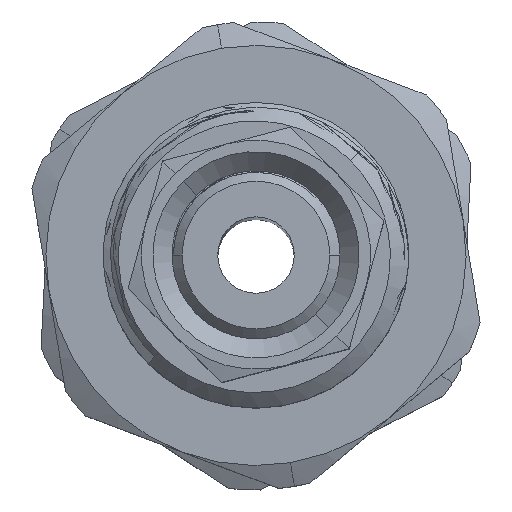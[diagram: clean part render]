
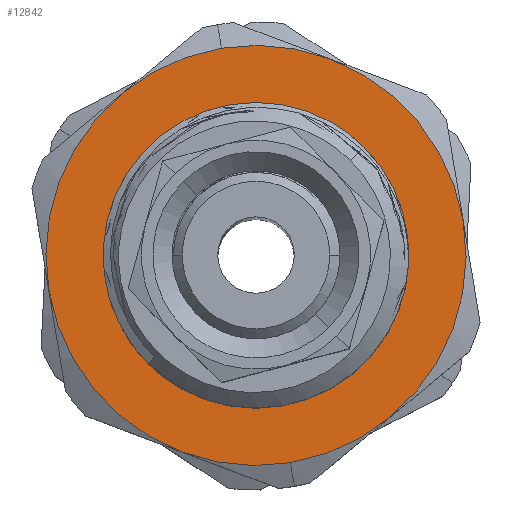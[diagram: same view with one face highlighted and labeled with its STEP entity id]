
A CAD part, top view. The second image highlights one B-rep face of the part: STEP entity #12842.
In plain terms, the highlighted planar face has unit normal (0, 0, 1).
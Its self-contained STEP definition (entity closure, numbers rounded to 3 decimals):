
#8 = CIRCLE ( 'NONE', #13604, 11. ) ;
#172 = CARTESIAN_POINT ( 'NONE',  ( 0., 0., 5. ) ) ;
#301 = ORIENTED_EDGE ( 'NONE', *, *, #12644, .F. ) ;
#445 = CARTESIAN_POINT ( 'NONE',  ( 0., 0., 5. ) ) ;
#558 = DIRECTION ( 'NONE',  ( -1., 0., 0. ) ) ;
#590 = CIRCLE ( 'NONE', #9138, 11. ) ;
#927 = FACE_OUTER_BOUND ( 'NONE', #12281, .T. ) ;
#932 = AXIS2_PLACEMENT_3D ( 'NONE', #15434, #7863, #558 ) ;
#1129 = EDGE_CURVE ( 'NONE', #8233, #4432, #590, .T. ) ;
#1427 = DIRECTION ( 'NONE',  ( -1., 0., 0. ) ) ;
#1951 = EDGE_CURVE ( 'NONE', #4432, #2527, #8, .T. ) ;
#2065 = CARTESIAN_POINT ( 'NONE',  ( 9.526, 5.5, 5. ) ) ;
#2132 = CIRCLE ( 'NONE', #8558, 11. ) ;
#2151 = ORIENTED_EDGE ( 'NONE', *, *, #1951, .F. ) ;
#2274 = VERTEX_POINT ( 'NONE', #10304 ) ;
#2281 = DIRECTION ( 'NONE',  ( 0., 0., -1. ) ) ;
#2290 = AXIS2_PLACEMENT_3D ( 'NONE', #10826, #3500, #12103 ) ;
#2527 = VERTEX_POINT ( 'NONE', #3101 ) ;
#2961 = EDGE_CURVE ( 'NONE', #8331, #8233, #6270, .T. ) ;
#3101 = CARTESIAN_POINT ( 'NONE',  ( -11., 0., 5. ) ) ;
#3500 = DIRECTION ( 'NONE',  ( 0., 0., -1. ) ) ;
#3674 = AXIS2_PLACEMENT_3D ( 'NONE', #6222, #5862, #5921 ) ;
#3775 = CARTESIAN_POINT ( 'NONE',  ( 11., 0., 5. ) ) ;
#3861 = ORIENTED_EDGE ( 'NONE', *, *, #1129, .F. ) ;
#4076 = PLANE ( 'NONE',  #4779 ) ;
#4120 = DIRECTION ( 'NONE',  ( 1., 0., 0. ) ) ;
#4432 = VERTEX_POINT ( 'NONE', #15729 ) ;
#4541 = FACE_BOUND ( 'NONE', #10410, .T. ) ;
#4779 = AXIS2_PLACEMENT_3D ( 'NONE', #445, #11462, #4120 ) ;
#4956 = CIRCLE ( 'NONE', #8322, 11. ) ;
#5278 = ORIENTED_EDGE ( 'NONE', *, *, #15771, .T. ) ;
#5765 = VERTEX_POINT ( 'NONE', #15951 ) ;
#5798 = CARTESIAN_POINT ( 'NONE',  ( 0., 0., 5. ) ) ;
#5862 = DIRECTION ( 'NONE',  ( 0., 0., -1. ) ) ;
#5921 = DIRECTION ( 'NONE',  ( 1., 0., 0. ) ) ;
#6184 = CARTESIAN_POINT ( 'NONE',  ( 0., 0., 5. ) ) ;
#6198 = DIRECTION ( 'NONE',  ( 0., 0., -1. ) ) ;
#6222 = CARTESIAN_POINT ( 'NONE',  ( 0., 0., 5. ) ) ;
#6245 = DIRECTION ( 'NONE',  ( 1., 0., 0. ) ) ;
#6270 = CIRCLE ( 'NONE', #11241, 11. ) ;
#6760 = VERTEX_POINT ( 'NONE', #7225 ) ;
#7018 = DIRECTION ( 'NONE',  ( -1., 0., 0. ) ) ;
#7225 = CARTESIAN_POINT ( 'NONE',  ( -9.526, 5.5, 5. ) ) ;
#7399 = EDGE_CURVE ( 'NONE', #11761, #8331, #8177, .T. ) ;
#7445 = ORIENTED_EDGE ( 'NONE', *, *, #13325, .F. ) ;
#7557 = DIRECTION ( 'NONE',  ( 1., 0., 0. ) ) ;
#7609 = DIRECTION ( 'NONE',  ( 0., 0., -1. ) ) ;
#7713 = CARTESIAN_POINT ( 'NONE',  ( 0., 0., 5. ) ) ;
#7863 = DIRECTION ( 'NONE',  ( 0., 0., -1. ) ) ;
#7954 = CIRCLE ( 'NONE', #932, 8. ) ;
#8177 = CIRCLE ( 'NONE', #3674, 11. ) ;
#8233 = VERTEX_POINT ( 'NONE', #11210 ) ;
#8322 = AXIS2_PLACEMENT_3D ( 'NONE', #7713, #7609, #7557 ) ;
#8331 = VERTEX_POINT ( 'NONE', #11370 ) ;
#8361 = AXIS2_PLACEMENT_3D ( 'NONE', #172, #8713, #1427 ) ;
#8558 = AXIS2_PLACEMENT_3D ( 'NONE', #9584, #2281, #10827 ) ;
#8713 = DIRECTION ( 'NONE',  ( 0., 0., -1. ) ) ;
#9138 = AXIS2_PLACEMENT_3D ( 'NONE', #15812, #15822, #15827 ) ;
#9309 = CIRCLE ( 'NONE', #15063, 8. ) ;
#9442 = EDGE_CURVE ( 'NONE', #2527, #6760, #4956, .T. ) ;
#9584 = CARTESIAN_POINT ( 'NONE',  ( 0., 0., 5. ) ) ;
#9706 = ORIENTED_EDGE ( 'NONE', *, *, #16039, .T. ) ;
#9840 = CARTESIAN_POINT ( 'NONE',  ( -8., 0., 5. ) ) ;
#9900 = DIRECTION ( 'NONE',  ( 1., 0., 0. ) ) ;
#9919 = DIRECTION ( 'NONE',  ( 0., 0., -1. ) ) ;
#9934 = CARTESIAN_POINT ( 'NONE',  ( 0., 0., 5. ) ) ;
#10101 = ORIENTED_EDGE ( 'NONE', *, *, #7399, .F. ) ;
#10304 = CARTESIAN_POINT ( 'NONE',  ( 8., 0., 5. ) ) ;
#10410 = EDGE_LOOP ( 'NONE', ( #5278, #9706 ) ) ;
#10470 = VERTEX_POINT ( 'NONE', #9840 ) ;
#10826 = CARTESIAN_POINT ( 'NONE',  ( 0., 0., 5. ) ) ;
#10827 = DIRECTION ( 'NONE',  ( 1., 0., 0. ) ) ;
#11210 = CARTESIAN_POINT ( 'NONE',  ( 0., -11., 5. ) ) ;
#11241 = AXIS2_PLACEMENT_3D ( 'NONE', #9934, #9919, #9900 ) ;
#11370 = CARTESIAN_POINT ( 'NONE',  ( 9.526, -5.5, 5. ) ) ;
#11462 = DIRECTION ( 'NONE',  ( 0., 0., 1. ) ) ;
#11761 = VERTEX_POINT ( 'NONE', #3775 ) ;
#11854 = CIRCLE ( 'NONE', #2290, 11. ) ;
#12103 = DIRECTION ( 'NONE',  ( 1., 0., 0. ) ) ;
#12241 = ORIENTED_EDGE ( 'NONE', *, *, #2961, .F. ) ;
#12281 = EDGE_LOOP ( 'NONE', ( #12241, #10101, #16086, #7445, #301, #14563, #2151, #3861 ) ) ;
#12644 = EDGE_CURVE ( 'NONE', #6760, #5765, #15295, .T. ) ;
#12842 = ADVANCED_FACE ( 'NONE', ( #4541, #927 ), #4076, .T. ) ;
#13151 = VERTEX_POINT ( 'NONE', #2065 ) ;
#13325 = EDGE_CURVE ( 'NONE', #5765, #13151, #2132, .T. ) ;
#13604 = AXIS2_PLACEMENT_3D ( 'NONE', #6184, #6198, #6245 ) ;
#14560 = DIRECTION ( 'NONE',  ( 0., 0., -1. ) ) ;
#14563 = ORIENTED_EDGE ( 'NONE', *, *, #9442, .F. ) ;
#15063 = AXIS2_PLACEMENT_3D ( 'NONE', #5798, #14560, #7018 ) ;
#15295 = CIRCLE ( 'NONE', #8361, 11. ) ;
#15434 = CARTESIAN_POINT ( 'NONE',  ( 0., 0., 5. ) ) ;
#15729 = CARTESIAN_POINT ( 'NONE',  ( -9.526, -5.5, 5. ) ) ;
#15771 = EDGE_CURVE ( 'NONE', #10470, #2274, #7954, .T. ) ;
#15812 = CARTESIAN_POINT ( 'NONE',  ( 0., 0., 5. ) ) ;
#15822 = DIRECTION ( 'NONE',  ( 0., 0., -1. ) ) ;
#15827 = DIRECTION ( 'NONE',  ( 1., 0., 0. ) ) ;
#15951 = CARTESIAN_POINT ( 'NONE',  ( 0., 11., 5. ) ) ;
#16039 = EDGE_CURVE ( 'NONE', #2274, #10470, #9309, .T. ) ;
#16086 = ORIENTED_EDGE ( 'NONE', *, *, #16092, .F. ) ;
#16092 = EDGE_CURVE ( 'NONE', #13151, #11761, #11854, .T. ) ;
